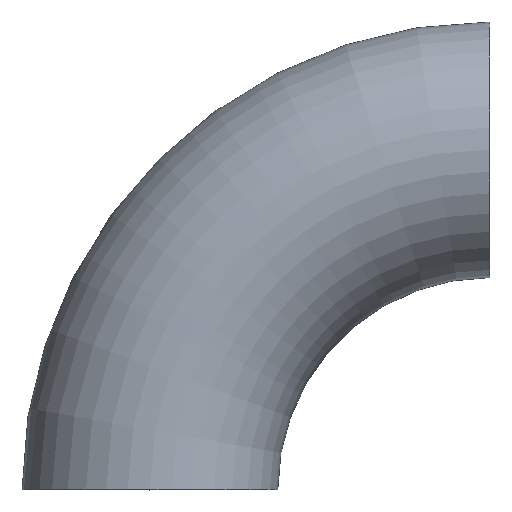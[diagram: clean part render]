
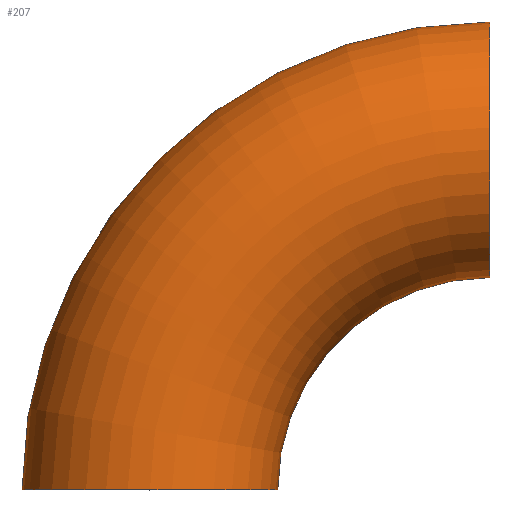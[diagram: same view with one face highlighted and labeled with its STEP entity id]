
A CAD part, top view. The second image highlights one B-rep face of the part: STEP entity #207.
In plain terms, the highlighted toroidal (fillet/blend) face has major radius 152 mm and minor radius 57.15 mm.
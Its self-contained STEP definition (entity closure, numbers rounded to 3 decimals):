
#1 = TOROIDAL_SURFACE ( 'NONE', #91, 152., 57.15 ) ;
#5 = EDGE_CURVE ( 'NONE', #40, #220, #173, .T. ) ;
#11 = CARTESIAN_POINT ( 'NONE',  ( 152., 0., 0. ) ) ;
#17 = CIRCLE ( 'NONE', #252, 209.15 ) ;
#27 = DIRECTION ( 'NONE',  ( 0., 0., 1. ) ) ;
#31 = AXIS2_PLACEMENT_3D ( 'NONE', #107, #200, #27 ) ;
#32 = CARTESIAN_POINT ( 'NONE',  ( 57.15, 0., 0. ) ) ;
#36 = CIRCLE ( 'NONE', #211, 57.15 ) ;
#40 = VERTEX_POINT ( 'NONE', #219 ) ;
#53 = FACE_OUTER_BOUND ( 'NONE', #93, .T. ) ;
#72 = CARTESIAN_POINT ( 'NONE',  ( 152., 0., 0. ) ) ;
#75 = ORIENTED_EDGE ( 'NONE', *, *, #5, .T. ) ;
#91 = AXIS2_PLACEMENT_3D ( 'NONE', #202, #134, #135 ) ;
#92 = DIRECTION ( 'NONE',  ( 1., 0., 0. ) ) ;
#93 = EDGE_LOOP ( 'NONE', ( #224, #169, #75, #116 ) ) ;
#95 = DIRECTION ( 'NONE',  ( 1., 0., 0. ) ) ;
#107 = CARTESIAN_POINT ( 'NONE',  ( 0., 0., 0. ) ) ;
#116 = ORIENTED_EDGE ( 'NONE', *, *, #130, .F. ) ;
#117 = DIRECTION ( 'NONE',  ( 1., 0., 0. ) ) ;
#122 = DIRECTION ( 'NONE',  ( 0., 0., 1. ) ) ;
#130 = EDGE_CURVE ( 'NONE', #239, #220, #159, .T. ) ;
#134 = DIRECTION ( 'NONE',  ( 0., 0., 1. ) ) ;
#135 = DIRECTION ( 'NONE',  ( 1., 0., 0. ) ) ;
#145 = DIRECTION ( 'NONE',  ( 0., 0., 1. ) ) ;
#159 = CIRCLE ( 'NONE', #164, 94.85 ) ;
#164 = AXIS2_PLACEMENT_3D ( 'NONE', #11, #145, #95 ) ;
#169 = ORIENTED_EDGE ( 'NONE', *, *, #172, .T. ) ;
#172 = EDGE_CURVE ( 'NONE', #230, #40, #17, .T. ) ;
#173 = CIRCLE ( 'NONE', #31, 57.15 ) ;
#188 = CARTESIAN_POINT ( 'NONE',  ( 152., 94.85, 0. ) ) ;
#200 = DIRECTION ( 'NONE',  ( 0., 1., 0. ) ) ;
#202 = CARTESIAN_POINT ( 'NONE',  ( 152., 0., 0. ) ) ;
#206 = DIRECTION ( 'NONE',  ( 0., 0., 1. ) ) ;
#207 = ADVANCED_FACE ( 'NONE', ( #53 ), #1, .T. ) ;
#210 = CARTESIAN_POINT ( 'NONE',  ( 152., 209.15, 0. ) ) ;
#211 = AXIS2_PLACEMENT_3D ( 'NONE', #228, #117, #122 ) ;
#219 = CARTESIAN_POINT ( 'NONE',  ( -57.15, 0., 0. ) ) ;
#220 = VERTEX_POINT ( 'NONE', #32 ) ;
#224 = ORIENTED_EDGE ( 'NONE', *, *, #251, .F. ) ;
#228 = CARTESIAN_POINT ( 'NONE',  ( 152., 152., 0. ) ) ;
#230 = VERTEX_POINT ( 'NONE', #210 ) ;
#239 = VERTEX_POINT ( 'NONE', #188 ) ;
#251 = EDGE_CURVE ( 'NONE', #230, #239, #36, .T. ) ;
#252 = AXIS2_PLACEMENT_3D ( 'NONE', #72, #206, #92 ) ;
